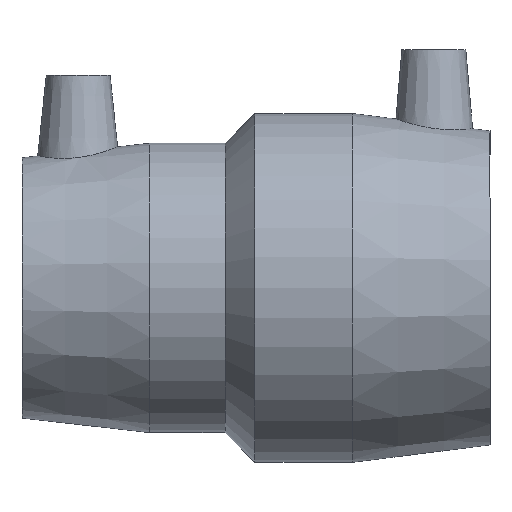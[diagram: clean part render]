
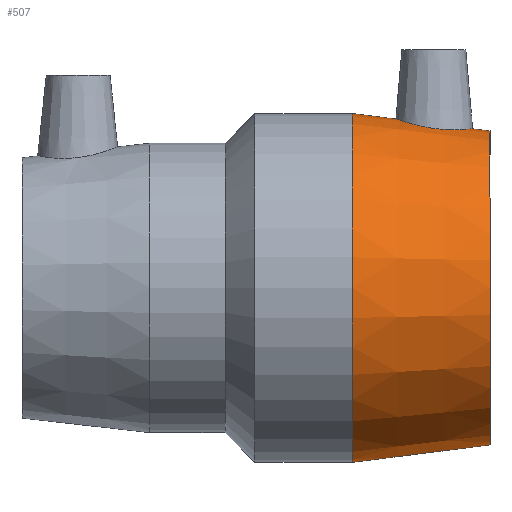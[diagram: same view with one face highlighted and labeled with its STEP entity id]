
A CAD part, top view. The second image highlights one B-rep face of the part: STEP entity #507.
In plain terms, the highlighted conical face has half-angle 7.212 degrees and reference radius 38.95 mm.
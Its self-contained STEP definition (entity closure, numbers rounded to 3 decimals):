
#15=B_SPLINE_CURVE_WITH_KNOTS('',3,(#830,#831,#832,#833,#834,#835,#836,
#837,#838,#839,#840,#841,#842,#843,#844,#845,#846,#847,#848,#849,#850,#851,
#852,#853,#854,#855),.UNSPECIFIED.,.F.,.F.,(4,2,2,2,2,2,2,2,2,2,2,2,4),
(0.,0.335,0.669,1.006,1.342,
1.679,2.015,2.35,2.684,3.042,
3.399,3.749,4.099),.UNSPECIFIED.);
#16=B_SPLINE_CURVE_WITH_KNOTS('',3,(#856,#857,#858,#859,#860,#861,#862,
#863,#864,#865),.UNSPECIFIED.,.F.,.F.,(4,2,2,2,4),(4.099,4.449,
4.798,5.156,5.513),.UNSPECIFIED.);
#22=CONICAL_SURFACE('',#577,38.95,0.126);
#31=FACE_BOUND('',#139,.T.);
#48=LINE('',#948,#67);
#67=VECTOR('',#708,38.95);
#103=FACE_OUTER_BOUND('',#138,.T.);
#138=EDGE_LOOP('',(#392,#393,#394,#395,#396,#397));
#139=EDGE_LOOP('',(#398,#399));
#179=CIRCLE('',#575,41.);
#180=CIRCLE('',#576,41.);
#181=CIRCLE('',#578,36.9);
#182=CIRCLE('',#579,36.9);
#218=VERTEX_POINT('',#828);
#219=VERTEX_POINT('',#829);
#232=VERTEX_POINT('',#938);
#233=VERTEX_POINT('',#939);
#234=VERTEX_POINT('',#944);
#235=VERTEX_POINT('',#945);
#273=EDGE_CURVE('',#218,#219,#15,.T.);
#274=EDGE_CURVE('',#219,#218,#16,.T.);
#293=EDGE_CURVE('',#232,#233,#179,.T.);
#294=EDGE_CURVE('',#233,#232,#180,.T.);
#296=EDGE_CURVE('',#234,#235,#181,.T.);
#297=EDGE_CURVE('',#235,#234,#182,.T.);
#298=EDGE_CURVE('',#235,#233,#48,.T.);
#392=ORIENTED_EDGE('',*,*,#296,.F.);
#393=ORIENTED_EDGE('',*,*,#297,.F.);
#394=ORIENTED_EDGE('',*,*,#298,.T.);
#395=ORIENTED_EDGE('',*,*,#294,.T.);
#396=ORIENTED_EDGE('',*,*,#293,.T.);
#397=ORIENTED_EDGE('',*,*,#298,.F.);
#398=ORIENTED_EDGE('',*,*,#273,.T.);
#399=ORIENTED_EDGE('',*,*,#274,.T.);
#507=ADVANCED_FACE('',(#103,#31),#22,.T.);
#575=AXIS2_PLACEMENT_3D('',#940,#697,#698);
#576=AXIS2_PLACEMENT_3D('',#941,#699,#700);
#577=AXIS2_PLACEMENT_3D('',#943,#702,#703);
#578=AXIS2_PLACEMENT_3D('',#946,#704,#705);
#579=AXIS2_PLACEMENT_3D('',#947,#706,#707);
#697=DIRECTION('center_axis',(1.,0.,0.));
#698=DIRECTION('ref_axis',(0.,0.,-1.));
#699=DIRECTION('center_axis',(1.,0.,0.));
#700=DIRECTION('ref_axis',(0.,0.,-1.));
#702=DIRECTION('center_axis',(-1.,0.,0.));
#703=DIRECTION('ref_axis',(0.,1.,0.));
#704=DIRECTION('center_axis',(1.,0.,0.));
#705=DIRECTION('ref_axis',(0.,0.,-1.));
#706=DIRECTION('center_axis',(1.,0.,0.));
#707=DIRECTION('ref_axis',(0.,0.,-1.));
#708=DIRECTION('',(-0.992,-0.126,0.));
#828=CARTESIAN_POINT('',(42.171,37.429,-9.117));
#829=CARTESIAN_POINT('',(32.874,39.7,0.));
#830=CARTESIAN_POINT('Ctrl Pts',(42.171,37.429,-9.117));
#831=CARTESIAN_POINT('Ctrl Pts',(43.278,37.293,-9.084));
#832=CARTESIAN_POINT('Ctrl Pts',(44.457,37.204,-8.83));
#833=CARTESIAN_POINT('Ctrl Pts',(46.619,37.139,-7.868));
#834=CARTESIAN_POINT('Ctrl Pts',(47.602,37.161,-7.16));
#835=CARTESIAN_POINT('Ctrl Pts',(49.151,37.238,-5.549));
#836=CARTESIAN_POINT('Ctrl Pts',(49.821,37.297,-4.534));
#837=CARTESIAN_POINT('Ctrl Pts',(50.709,37.387,-2.32));
#838=CARTESIAN_POINT('Ctrl Pts',(50.926,37.416,-1.122));
#839=CARTESIAN_POINT('Ctrl Pts',(50.926,37.416,1.122));
#840=CARTESIAN_POINT('Ctrl Pts',(50.709,37.387,2.32));
#841=CARTESIAN_POINT('Ctrl Pts',(49.821,37.297,4.534));
#842=CARTESIAN_POINT('Ctrl Pts',(49.151,37.238,5.549));
#843=CARTESIAN_POINT('Ctrl Pts',(47.602,37.161,7.16));
#844=CARTESIAN_POINT('Ctrl Pts',(46.619,37.139,7.868));
#845=CARTESIAN_POINT('Ctrl Pts',(44.457,37.204,8.83));
#846=CARTESIAN_POINT('Ctrl Pts',(43.278,37.293,9.084));
#847=CARTESIAN_POINT('Ctrl Pts',(40.989,37.574,9.153));
#848=CARTESIAN_POINT('Ctrl Pts',(39.736,37.791,8.942));
#849=CARTESIAN_POINT('Ctrl Pts',(37.437,38.294,8.024));
#850=CARTESIAN_POINT('Ctrl Pts',(36.391,38.576,7.317));
#851=CARTESIAN_POINT('Ctrl Pts',(34.756,39.058,5.689));
#852=CARTESIAN_POINT('Ctrl Pts',(34.05,39.292,4.664));
#853=CARTESIAN_POINT('Ctrl Pts',(33.109,39.614,2.403));
#854=CARTESIAN_POINT('Ctrl Pts',(32.874,39.7,1.166));
#855=CARTESIAN_POINT('Ctrl Pts',(32.874,39.7,0.));
#856=CARTESIAN_POINT('Ctrl Pts',(32.874,39.7,0.));
#857=CARTESIAN_POINT('Ctrl Pts',(32.874,39.7,-1.166));
#858=CARTESIAN_POINT('Ctrl Pts',(33.109,39.614,-2.403));
#859=CARTESIAN_POINT('Ctrl Pts',(34.05,39.292,-4.664));
#860=CARTESIAN_POINT('Ctrl Pts',(34.756,39.058,-5.689));
#861=CARTESIAN_POINT('Ctrl Pts',(36.391,38.576,-7.317));
#862=CARTESIAN_POINT('Ctrl Pts',(37.437,38.294,-8.024));
#863=CARTESIAN_POINT('Ctrl Pts',(39.736,37.791,-8.942));
#864=CARTESIAN_POINT('Ctrl Pts',(40.989,37.574,-9.153));
#865=CARTESIAN_POINT('Ctrl Pts',(42.171,37.429,-9.117));
#938=CARTESIAN_POINT('',(22.6,41.,0.));
#939=CARTESIAN_POINT('',(22.6,-41.,0.));
#940=CARTESIAN_POINT('Origin',(22.6,0.,0.));
#941=CARTESIAN_POINT('Origin',(22.6,0.,0.));
#943=CARTESIAN_POINT('Origin',(38.8,0.,0.));
#944=CARTESIAN_POINT('',(55.,36.9,0.));
#945=CARTESIAN_POINT('',(55.,-36.9,0.));
#946=CARTESIAN_POINT('Origin',(55.,0.,0.));
#947=CARTESIAN_POINT('Origin',(55.,0.,0.));
#948=CARTESIAN_POINT('',(38.8,-38.95,0.));
